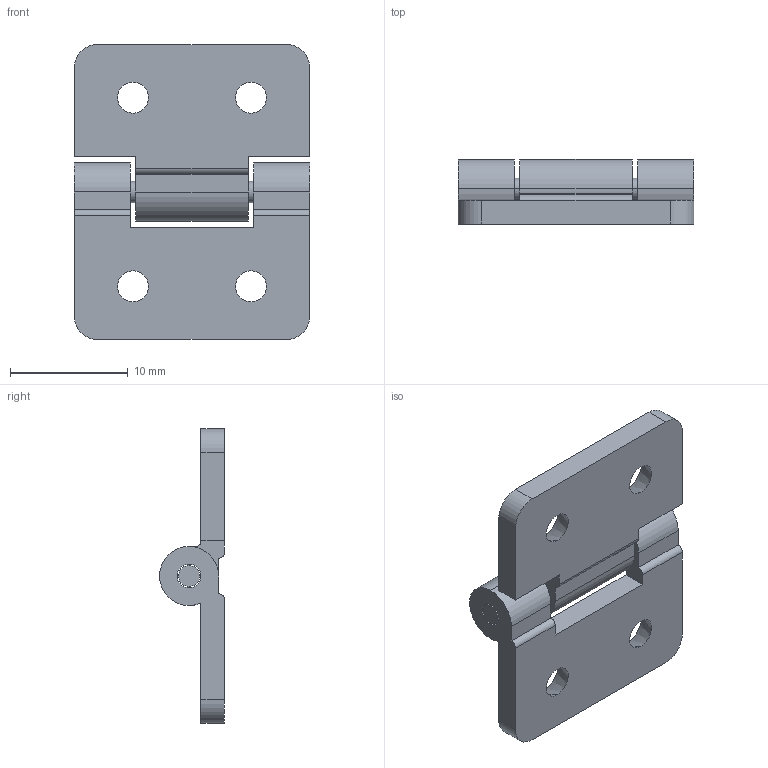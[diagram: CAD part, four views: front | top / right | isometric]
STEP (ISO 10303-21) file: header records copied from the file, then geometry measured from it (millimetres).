
FILE_DESCRIPTION (( 'STEP AP203' ), '1' );
FILE_NAME ('XG11-026-3.STEP', '2023-12-04T08:17:03', ( '' ), ( '' ), 'SwSTEP 2.0', 'SolidWorks 2020', '' );
FILE_SCHEMA (( 'CONFIG_CONTROL_DESIGN' ));
Length unit declared in the file: millimetre
Products named in the file (4): 錨璃2; 錨璃1; XG11-026-3; 錨璃3
Assembly tree (3 placements, depth 2):
  XG11-026-3
    錨璃1
    錨璃2
    錨璃3
Bounding box: 20 x 5.5 x 25 mm (x, y, z)
Volume: 1088.2 mm3; surface area: 1626.2 mm2
Topology: 3 solids, 3 shells, 56 faces, 150 edges, 100 vertices
Faces by surface type: cylinder 26, plane 22, cone 8
Entity records: 2224 total; most frequent: DIRECTION 342, CARTESIAN_POINT 312, ORIENTED_EDGE 300, EDGE_CURVE 150, AXIS2_PLACEMENT_3D 130, VERTEX_POINT 100, LINE 82, VECTOR 82
